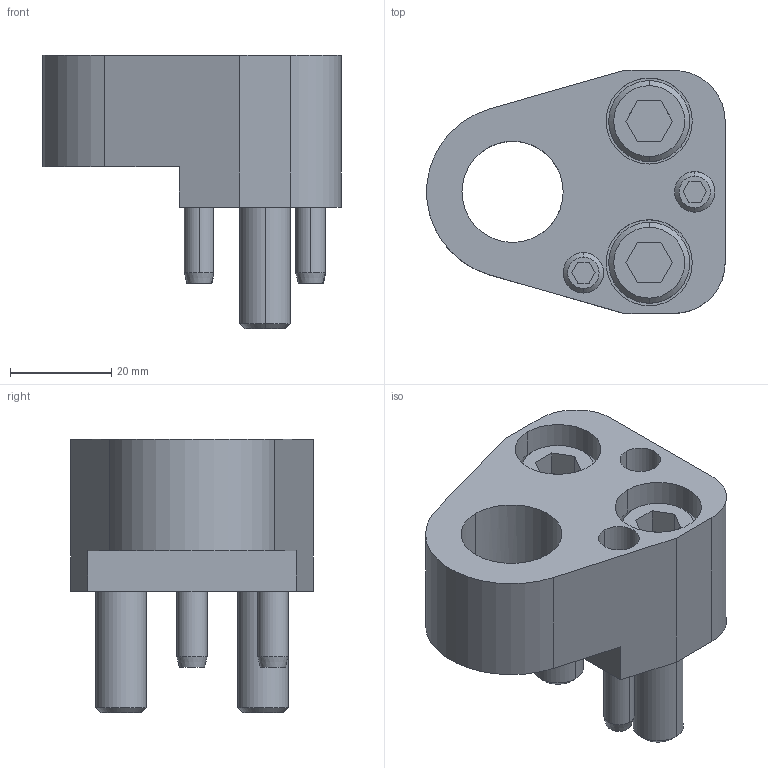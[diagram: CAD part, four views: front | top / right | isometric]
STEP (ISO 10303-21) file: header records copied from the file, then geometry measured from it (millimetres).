
FILE_DESCRIPTION(/* description */ (''),/* implementation_level */ '2;1');
FILE_NAME(/* name */ '3d_fpfr20_03783_r00.stp',/* time_stamp */ '2011-01-10T14:15:34+09:00',/* author */ ('MISUMI'),/* organization */ (''),/* preprocessor_version */ 'ST-DEVELOPER v11',/* originating_system */ 'UGS - NX 5.0',/* authorisation */ '');
FILE_SCHEMA (('CONFIG_CONTROL_DESIGN'));
Length unit declared in the file: millimetre
Products named in the file (1): 3d_fpfr20_03783_r00
Bounding box: 58.94 x 48 x 54 mm (x, y, z)
Volume: 54925.8 mm3; surface area: 20447.5 mm2
Topology: 7 solids, 7 shells, 134 faces, 298 edges, 191 vertices
Faces by surface type: plane 61, cylinder 47, cone 26
Entity records: 3858 total; most frequent: CARTESIAN_POINT 683, DIRECTION 682, ORIENTED_EDGE 596, EDGE_CURVE 298, AXIS2_PLACEMENT_3D 256, VERTEX_POINT 191, LINE 170, VECTOR 170
